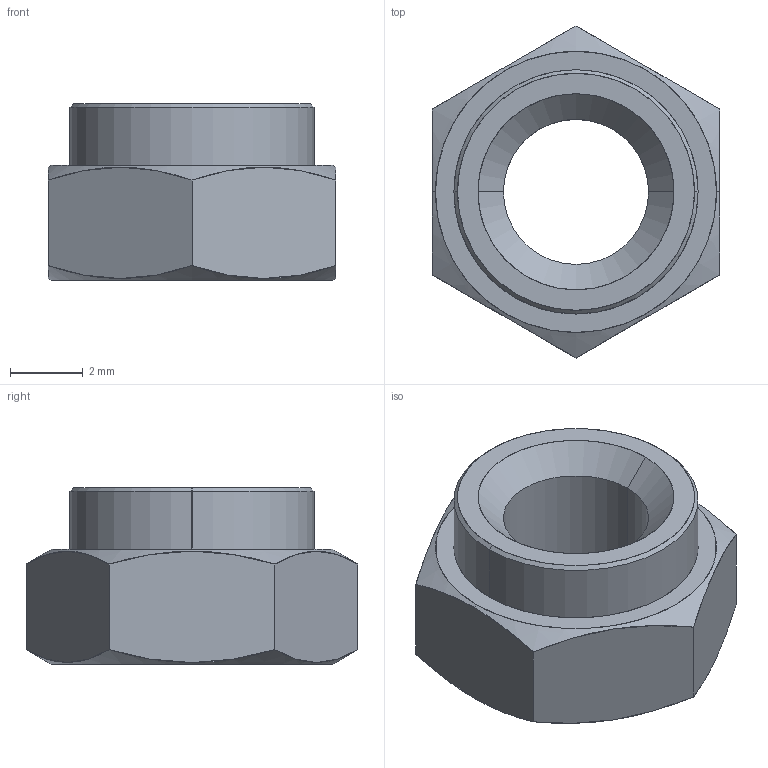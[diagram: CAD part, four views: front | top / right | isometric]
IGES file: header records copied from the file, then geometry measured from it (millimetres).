
Start section: SolidWorks IGES file using analytic representation for surfaces
Global section: file name: C:\Users\liam_\OneDrive\Desktop\Work\Mat Davis Pending 20181125\automotion\P SERIES\P0827.ZP_v2\P0827.ZP_v2_20181231_IGES\P0827.040-18G-ZP.igs; native system: SolidWorks 2017; preprocessor: SolidWorks 2017; author: liam_; date: 181231.110420; units: millimetre
Bounding box: 7.92 x 9.15 x 4.87 mm (x, y, z)
Surface area: 250.1 mm2 (no closed solid volume)
Topology: 0 solids, 0 shells, 23 faces, 376 edges, 376 vertices
Faces by surface type: revolution 14, bspline 9
